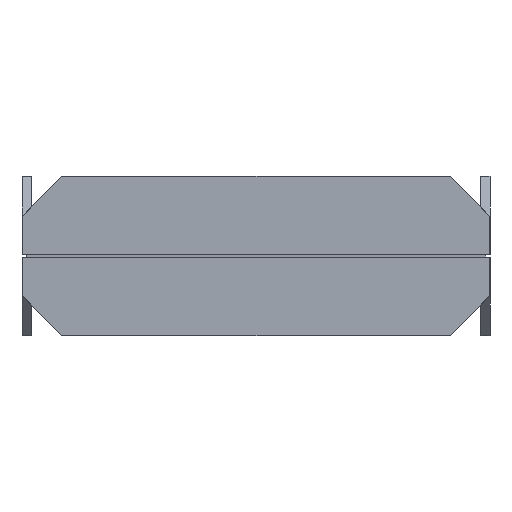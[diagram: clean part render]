
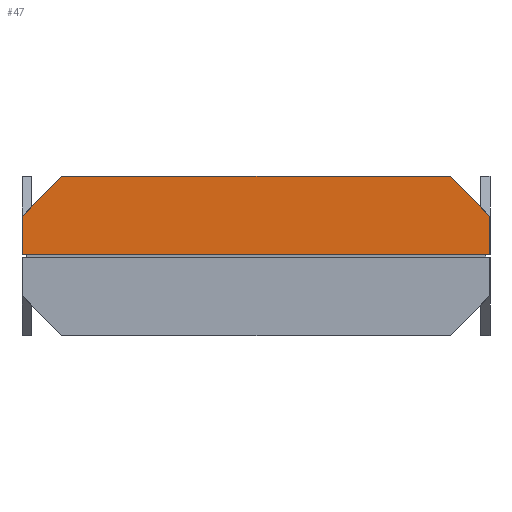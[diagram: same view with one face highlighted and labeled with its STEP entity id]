
A CAD part, left-side view. The second image highlights one B-rep face of the part: STEP entity #47.
In plain terms, the highlighted planar face has unit normal (-1, 0, 0).
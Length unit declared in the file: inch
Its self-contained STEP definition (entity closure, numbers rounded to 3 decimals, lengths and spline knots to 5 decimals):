
#47=ADVANCED_FACE('',(#103),#892,.T.);
#103=FACE_OUTER_BOUND('',#159,.T.);
#159=EDGE_LOOP('',(#307,#308,#309,#310,#311,#312));
#307=ORIENTED_EDGE('',*,*,#526,.F.);
#308=ORIENTED_EDGE('',*,*,#524,.F.);
#309=ORIENTED_EDGE('',*,*,#521,.F.);
#310=ORIENTED_EDGE('',*,*,#519,.F.);
#311=ORIENTED_EDGE('',*,*,#518,.T.);
#312=ORIENTED_EDGE('',*,*,#540,.F.);
#518=EDGE_CURVE('',#799,#812,#662,.T.);
#519=EDGE_CURVE('',#799,#800,#663,.T.);
#521=EDGE_CURVE('',#800,#802,#665,.T.);
#524=EDGE_CURVE('',#802,#804,#668,.T.);
#526=EDGE_CURVE('',#804,#814,#670,.T.);
#540=EDGE_CURVE('',#814,#812,#684,.T.);
#662=B_SPLINE_CURVE_WITH_KNOTS('',1,(#1298,#1299),.UNSPECIFIED.,.F.,.F.,
(2,2),(-1.89436,0.04314),.UNSPECIFIED.);
#663=B_SPLINE_CURVE_WITH_KNOTS('',1,(#1300,#1301),.UNSPECIFIED.,.F.,.F.,
(2,2),(1.89436,4.72279),.UNSPECIFIED.);
#665=B_SPLINE_CURVE_WITH_KNOTS('',1,(#1304,#1305),.UNSPECIFIED.,.F.,.F.,
(2,2),(4.72279,24.22279),.UNSPECIFIED.);
#668=B_SPLINE_CURVE_WITH_KNOTS('',1,(#1310,#1311),.UNSPECIFIED.,.F.,.F.,
(2,2),(24.22279,27.05122),.UNSPECIFIED.);
#670=B_SPLINE_CURVE_WITH_KNOTS('',1,(#1314,#1315),.UNSPECIFIED.,.F.,.F.,
(2,2),(27.05122,28.98872),.UNSPECIFIED.);
#684=B_SPLINE_CURVE_WITH_KNOTS('',1,(#1350,#1351),.UNSPECIFIED.,.F.,.F.,
(2,2),(-47.25,-23.75),.UNSPECIFIED.);
#799=VERTEX_POINT('',#1271);
#800=VERTEX_POINT('',#1272);
#802=VERTEX_POINT('',#1274);
#804=VERTEX_POINT('',#1276);
#812=VERTEX_POINT('',#1284);
#814=VERTEX_POINT('',#1286);
#892=PLANE('',#1039);
#1039=AXIS2_PLACEMENT_3D('',#1264,#1099,$);
#1099=DIRECTION('',(-1.,0.,0.));
#1264=CARTESIAN_POINT('',(2710.03372,195.49431,-14.08855));
#1271=CARTESIAN_POINT('',(2710.03372,195.49431,-16.08855));
#1272=CARTESIAN_POINT('',(2710.03372,193.49431,-14.08855));
#1274=CARTESIAN_POINT('',(2710.03372,173.99431,-14.08855));
#1276=CARTESIAN_POINT('',(2710.03372,171.99431,-16.08855));
#1284=CARTESIAN_POINT('',(2710.03372,195.49431,-18.02605));
#1286=CARTESIAN_POINT('',(2710.03372,171.99431,-18.02605));
#1298=CARTESIAN_POINT('',(2710.03372,195.49431,-16.08855));
#1299=CARTESIAN_POINT('',(2710.03372,195.49431,-18.02605));
#1300=CARTESIAN_POINT('',(2710.03372,195.49431,-16.08855));
#1301=CARTESIAN_POINT('',(2710.03372,193.49431,-14.08855));
#1304=CARTESIAN_POINT('',(2710.03372,193.49431,-14.08855));
#1305=CARTESIAN_POINT('',(2710.03372,173.99431,-14.08855));
#1310=CARTESIAN_POINT('',(2710.03372,173.99431,-14.08855));
#1311=CARTESIAN_POINT('',(2710.03372,171.99431,-16.08855));
#1314=CARTESIAN_POINT('',(2710.03372,171.99431,-16.08855));
#1315=CARTESIAN_POINT('',(2710.03372,171.99431,-18.02605));
#1350=CARTESIAN_POINT('',(2710.03372,171.99431,-18.02605));
#1351=CARTESIAN_POINT('',(2710.03372,195.49431,-18.02605));
